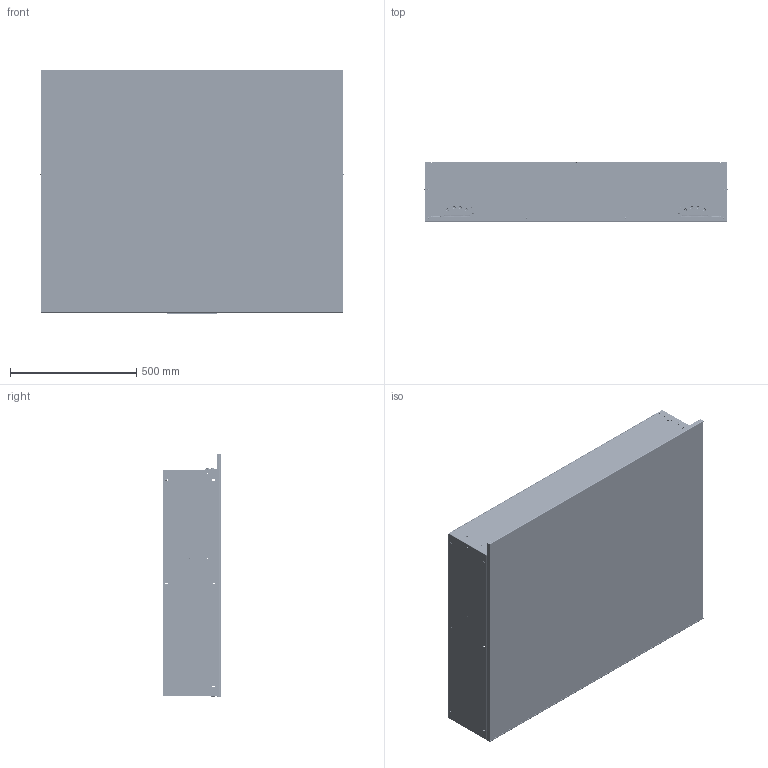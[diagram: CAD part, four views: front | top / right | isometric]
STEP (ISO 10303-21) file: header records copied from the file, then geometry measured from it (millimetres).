
FILE_DESCRIPTION (( 'STEP AP214' ), '1' );
FILE_NAME ('TSL.MR40.STEP', '2025-01-27T16:14:14', ( '' ), ( '' ), 'SwSTEP 2.0', 'SolidWorks 2022', '' );
FILE_SCHEMA (( 'AUTOMOTIVE_DESIGN' ));
Length unit declared in the file: millimetre
Products named in the file (53): 279100_1.stp; 279413-0.stp; 279417.stp; 279427.stp; 279107_Piston.stp; 5.0 E-Ring-Ext-SS.stp; 92406BK_MODULO Slimline Cabinet 1200mm Typical Assembly.stp; 279422.stp; 279421-3.stp; M6 x 12mm.stp; 1_8_pop_ss.stp; 170087-LockBody.stp; M6_Nyloc_SS.stp; 279411_oa_0.stp; 170082-LockLatch.stp; 279415.stp; 2_4_pop.stp; 279426.stp; 279079.stp; 115110_Pulled up.stp; 279100_3.stp; 170083-LockSpring.stp; 279100.stp; m6x10hex.stp; 170089- LockAssy_oa_2.stp; 279099.stp; 279107_Body.stp; 279423.stp; 279078.stp; TSL.MR40; M6 x 30mm.stp; M16_shakeproof.stp; M5 x 12mm SS.stp; M16 Nut-Half.stp; 279413.stp; 279421.stp; 125338.stp; 279097.stp; 170088-LockBarrel.stp; 279428.stp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
Assembly tree (209 placements, depth 6):
  TSL.MR40
    92406BK_MODULO Slimline Cabinet 1200mm Typical Assembly.stp
      279427.stp
        279417.stp
          279413.stp
            279413-0.stp
            115110_Pulled up.stp  x8
          279411_oa_0.stp
            279411_oa_1.stp
            M5 x 12mm SS.stp  x24
            2_4_pop.stp  x6
          279415.stp  x2
            279415-1.stp
            M6 x 30mm.stp
          1_8_pop_ss.stp  x36
          279414.stp  x2
        279079.stp  x2
          279078.stp
          M8 x 16.stp
        170089- LockAssy_oa_2.stp
          170087-LockBody.stp
          170088-LockBarrel.stp  x2
          170082-LockLatch.stp  x3
          5.0 E-Ring-Ext-SS.stp
          170083-LockSpring.stp
        m6x10hex.stp  x8
        125338.stp  x2
        M6_Nyloc_SS.stp  x2
        M8 Nyloc Nut.stp  x6
        M5_Flange_Nut.stp  x24
        M16_shakeproof.stp
        M16 Nut-Half.stp
      279428.stp
        279421.stp
          279422.stp  x2
            279422-2.stp
            M6 x 30mm.stp
          279421-3.stp
          2_4_pop.stp  x13
          M6 x 12mm.stp  x8
          279423.stp
          279424.stp
        279099.stp  x2
          279100.stp
            279100_1.stp
            279100_2.stp
            279100_3.stp
          279097.stp
          279098.stp
        279107.stp  x2
          279107_Body.stp
          279107_Piston.stp
        279425.stp
        2_4_pop.stp  x4
        M6_Nyloc_SS.stp  x10
        125338.stp  x2
        170133_Cut to 1200mm.stp  x3
        279426.stp
Bounding box: 1201.49 x 233.85 x 969.85 mm (x, y, z)
Volume: 7637678.1 mm3; surface area: 7675815.6 mm2
Topology: 201 solids, 209 shells, 6726 faces, 16746 edges, 10565 vertices
Faces by surface type: plane 3015, cylinder 2193, cone 893, torus 461, sphere 126, bspline 38
Entity records: 69409 total; most frequent: CARTESIAN_POINT 16461, DIRECTION 11041, ORIENTED_EDGE 10234, EDGE_CURVE 5121, AXIS2_PLACEMENT_3D 4113, VERTEX_POINT 3301, VECTOR 2815, LINE 2815
